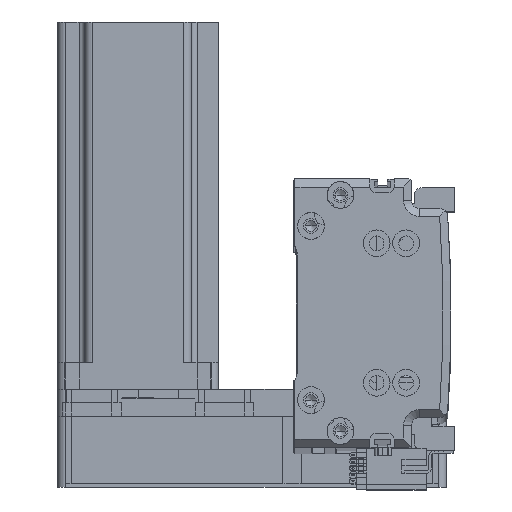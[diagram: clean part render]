
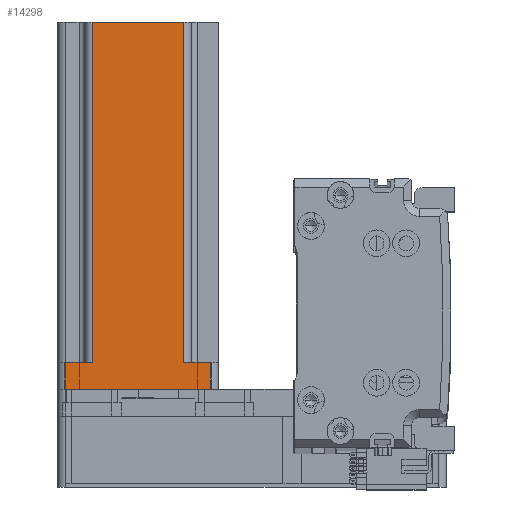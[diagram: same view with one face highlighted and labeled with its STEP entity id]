
A CAD part, top view. The second image highlights one B-rep face of the part: STEP entity #14298.
In plain terms, the highlighted planar face has unit normal (0, 0, 1) as drawn and (0, 1, 0) by its records, which use the part's own axes.
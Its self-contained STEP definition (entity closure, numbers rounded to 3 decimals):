
#785 = DIRECTION ( 'NONE',  ( 0., 0., 1. ) ) ;
#1645 = VERTEX_POINT ( 'NONE', #10060 ) ;
#3481 = EDGE_LOOP ( 'NONE', ( #54039, #47484, #3621, #29236, #4279, #45810, #28726, #4147 ) ) ;
#3621 = ORIENTED_EDGE ( 'NONE', *, *, #32361, .F. ) ;
#3645 = LINE ( 'NONE', #35457, #38008 ) ;
#4147 = ORIENTED_EDGE ( 'NONE', *, *, #52344, .T. ) ;
#4279 = ORIENTED_EDGE ( 'NONE', *, *, #54718, .F. ) ;
#5327 = VECTOR ( 'NONE', #785, 1000. ) ;
#6171 = VECTOR ( 'NONE', #47866, 1000. ) ;
#7495 = CARTESIAN_POINT ( 'NONE',  ( 27., 30., 10. ) ) ;
#8583 = DIRECTION ( 'NONE',  ( -1., 0., 0. ) ) ;
#9638 = CARTESIAN_POINT ( 'NONE',  ( -27., 30., 0. ) ) ;
#10060 = CARTESIAN_POINT ( 'NONE',  ( -27., 30., 10. ) ) ;
#10540 = VECTOR ( 'NONE', #20268, 1000. ) ;
#10906 = LINE ( 'NONE', #47854, #34776 ) ;
#11786 = VECTOR ( 'NONE', #52817, 1000. ) ;
#12348 = EDGE_CURVE ( 'NONE', #27286, #30961, #3645, .T. ) ;
#12413 = CARTESIAN_POINT ( 'NONE',  ( 17., 30., 137. ) ) ;
#12635 = DIRECTION ( 'NONE',  ( 0., 0., 1. ) ) ;
#13667 = EDGE_CURVE ( 'NONE', #45081, #33603, #50402, .T. ) ;
#14298 = ADVANCED_FACE ( 'NONE', ( #53047 ), #25352, .F. ) ;
#16227 = CARTESIAN_POINT ( 'NONE',  ( -17., 30., 137. ) ) ;
#16458 = CARTESIAN_POINT ( 'NONE',  ( 27., 30., 137. ) ) ;
#16521 = CARTESIAN_POINT ( 'NONE',  ( 30., 30., 137. ) ) ;
#17498 = VERTEX_POINT ( 'NONE', #7495 ) ;
#18037 = VERTEX_POINT ( 'NONE', #16227 ) ;
#18040 = CARTESIAN_POINT ( 'NONE',  ( 17., 30., 10. ) ) ;
#18049 = CARTESIAN_POINT ( 'NONE',  ( 17., 30., 137. ) ) ;
#18785 = CARTESIAN_POINT ( 'NONE',  ( -17., 30., 137. ) ) ;
#19178 = VECTOR ( 'NONE', #12635, 1000. ) ;
#19444 = LINE ( 'NONE', #16458, #6171 ) ;
#20037 = CARTESIAN_POINT ( 'NONE',  ( -17., 30., 10. ) ) ;
#20268 = DIRECTION ( 'NONE',  ( -1., 0., 0. ) ) ;
#20992 = DIRECTION ( 'NONE',  ( 1., 0., 0. ) ) ;
#23128 = AXIS2_PLACEMENT_3D ( 'NONE', #16521, #47929, #20992 ) ;
#25352 = PLANE ( 'NONE',  #23128 ) ;
#27286 = VERTEX_POINT ( 'NONE', #45127 ) ;
#28726 = ORIENTED_EDGE ( 'NONE', *, *, #12348, .T. ) ;
#29236 = ORIENTED_EDGE ( 'NONE', *, *, #13667, .T. ) ;
#30961 = VERTEX_POINT ( 'NONE', #9638 ) ;
#32361 = EDGE_CURVE ( 'NONE', #45081, #18037, #50032, .T. ) ;
#33603 = VERTEX_POINT ( 'NONE', #18040 ) ;
#34776 = VECTOR ( 'NONE', #52367, 1000. ) ;
#35457 = CARTESIAN_POINT ( 'NONE',  ( 30., 30., 0. ) ) ;
#35536 = VERTEX_POINT ( 'NONE', #20037 ) ;
#36014 = EDGE_CURVE ( 'NONE', #17498, #27286, #19444, .T. ) ;
#36668 = VECTOR ( 'NONE', #56241, 1000. ) ;
#36865 = EDGE_CURVE ( 'NONE', #35536, #18037, #41129, .T. ) ;
#38008 = VECTOR ( 'NONE', #8583, 1000. ) ;
#41129 = LINE ( 'NONE', #18785, #5327 ) ;
#45081 = VERTEX_POINT ( 'NONE', #18049 ) ;
#45127 = CARTESIAN_POINT ( 'NONE',  ( 27., 30., 0. ) ) ;
#45810 = ORIENTED_EDGE ( 'NONE', *, *, #36014, .T. ) ;
#46358 = LINE ( 'NONE', #51709, #10540 ) ;
#47484 = ORIENTED_EDGE ( 'NONE', *, *, #36865, .T. ) ;
#47854 = CARTESIAN_POINT ( 'NONE',  ( -20., 30., 10. ) ) ;
#47866 = DIRECTION ( 'NONE',  ( 0., 0., -1. ) ) ;
#47929 = DIRECTION ( 'NONE',  ( 0., -1., 0. ) ) ;
#50032 = LINE ( 'NONE', #51760, #36668 ) ;
#50402 = LINE ( 'NONE', #12413, #11786 ) ;
#51709 = CARTESIAN_POINT ( 'NONE',  ( 20., 30., 10. ) ) ;
#51760 = CARTESIAN_POINT ( 'NONE',  ( 30., 30., 137. ) ) ;
#52344 = EDGE_CURVE ( 'NONE', #30961, #1645, #53599, .T. ) ;
#52367 = DIRECTION ( 'NONE',  ( 1., 0., 0. ) ) ;
#52817 = DIRECTION ( 'NONE',  ( 0., 0., -1. ) ) ;
#53041 = CARTESIAN_POINT ( 'NONE',  ( -27., 30., 137. ) ) ;
#53047 = FACE_OUTER_BOUND ( 'NONE', #3481, .T. ) ;
#53599 = LINE ( 'NONE', #53041, #19178 ) ;
#54039 = ORIENTED_EDGE ( 'NONE', *, *, #57055, .T. ) ;
#54718 = EDGE_CURVE ( 'NONE', #17498, #33603, #46358, .T. ) ;
#56241 = DIRECTION ( 'NONE',  ( -1., 0., 0. ) ) ;
#57055 = EDGE_CURVE ( 'NONE', #1645, #35536, #10906, .T. ) ;
